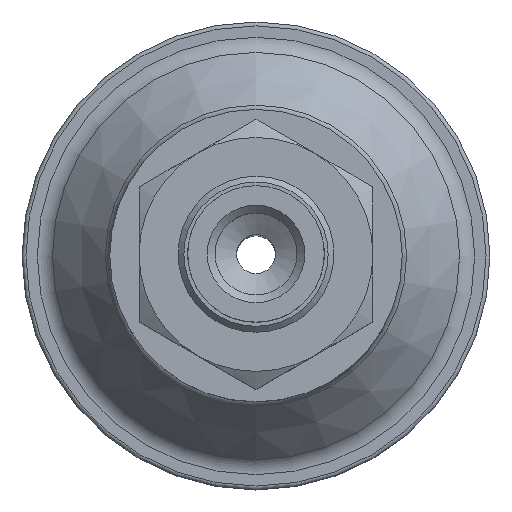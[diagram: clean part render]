
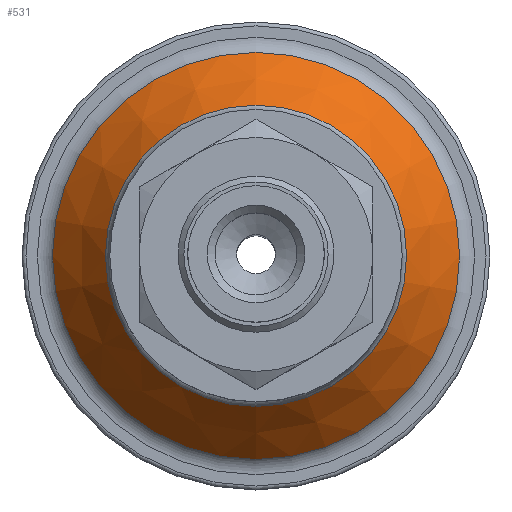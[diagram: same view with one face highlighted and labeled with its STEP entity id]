
A CAD part, top view. The second image highlights one B-rep face of the part: STEP entity #531.
In plain terms, the highlighted conical face has half-angle 39 degrees and reference radius 10.739 mm.
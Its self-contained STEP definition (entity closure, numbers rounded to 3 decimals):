
#531=ADVANCED_FACE('',(#803,#804),#805,.T.);
#803=FACE_BOUND('',#1144,.T.);
#804=FACE_OUTER_BOUND('',#1145,.T.);
#805=CONICAL_SURFACE('',#1146,10.739,0.681);
#1144=EDGE_LOOP('',(#1809));
#1145=EDGE_LOOP('',(#1810));
#1146=AXIS2_PLACEMENT_3D('',#1811,#1812,#1813);
#1809=ORIENTED_EDGE('',*,*,#2246,.T.);
#1810=ORIENTED_EDGE('',*,*,#2248,.T.);
#1811=CARTESIAN_POINT('',(0.0,9.5,0.0));
#1812=DIRECTION('',(-0.0,-1.0,0.));
#1813=DIRECTION('',(0.0,0.,-1.0));
#2246=EDGE_CURVE('',#2571,#2571,#2572,.T.);
#2248=EDGE_CURVE('',#2575,#2575,#2576,.T.);
#2571=VERTEX_POINT('',#3127);
#2572=CIRCLE('',#3128,7.723);
#2575=VERTEX_POINT('',#3131);
#2576=CIRCLE('',#3132,10.439);
#3127=CARTESIAN_POINT('',(0.0,13.225,-7.723));
#3128=AXIS2_PLACEMENT_3D('',#3541,#3542,#3543);
#3131=CARTESIAN_POINT('',(0.0,9.871,-10.439));
#3132=AXIS2_PLACEMENT_3D('',#3547,#3548,#3549);
#3541=CARTESIAN_POINT('',(0.0,13.225,0.0));
#3542=DIRECTION('',(0.0,-1.0,0.));
#3543=DIRECTION('',(0.0,0.,-1.0));
#3547=CARTESIAN_POINT('',(0.0,9.871,0.0));
#3548=DIRECTION('',(0.0,1.0,0.));
#3549=DIRECTION('',(0.0,0.,-1.0));
